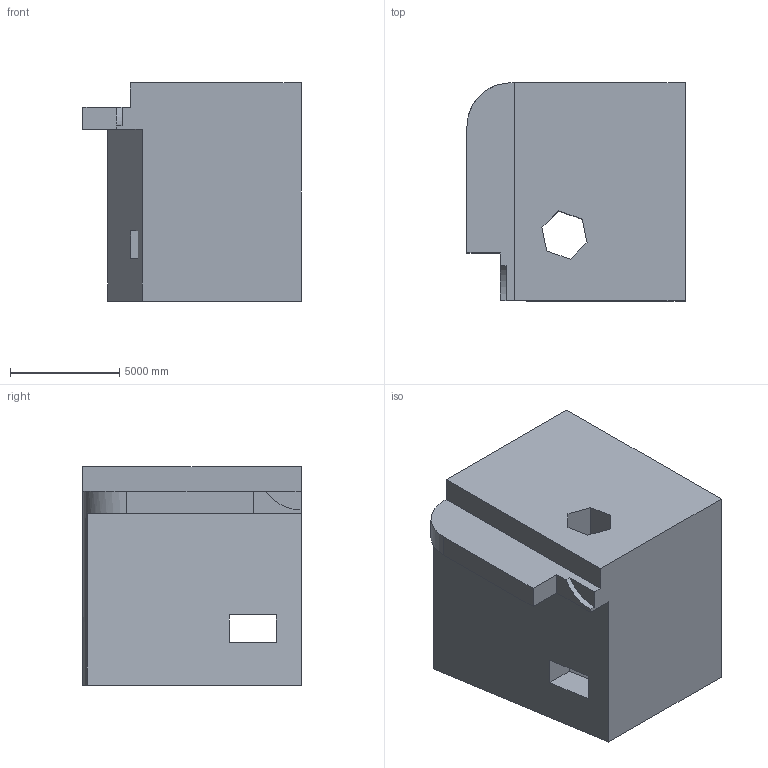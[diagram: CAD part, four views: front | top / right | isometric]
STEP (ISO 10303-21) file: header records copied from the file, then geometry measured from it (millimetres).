
FILE_DESCRIPTION (( 'STEP AP203' ), '1' );
FILE_NAME ('831.STEP', '2022-07-29T13:32:44', ( 'user' ), ( '' ), 'SwSTEP 2.0', 'SolidWorks 2021', '' );
FILE_SCHEMA (( 'CONFIG_CONTROL_DESIGN' ));
Length unit declared in the file: centimetre
Products named in the file (1): 831
Bounding box: 10000 x 10000 x 10000 mm (x, y, z)
Volume: 748433806815.3 mm3; surface area: 693148350.2 mm2
Topology: 1 solids, 1 shells, 39 faces, 114 edges, 76 vertices
Faces by surface type: plane 35, cylinder 4
Entity records: 1366 total; most frequent: CARTESIAN_POINT 230, ORIENTED_EDGE 228, DIRECTION 203, EDGE_CURVE 114, VECTOR 105, LINE 105, VERTEX_POINT 76, AXIS2_PLACEMENT_3D 49
